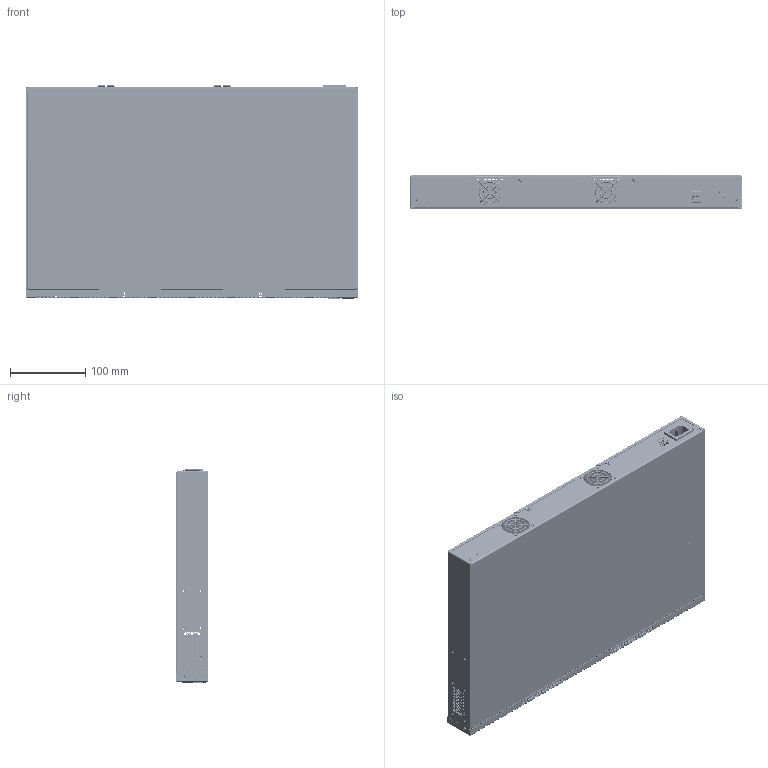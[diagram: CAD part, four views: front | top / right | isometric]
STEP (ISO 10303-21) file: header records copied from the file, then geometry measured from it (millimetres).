
FILE_DESCRIPTION (( 'STEP AP214' ), '1' );
FILE_NAME ('MES2300B-48.STEP', '2024-08-15T11:41:30', ( '' ), ( '' ), 'SwSTEP 2.0', 'SolidWorks 2023', '' );
FILE_SCHEMA (( 'AUTOMOTIVE_DESIGN' ));
Length unit declared in the file: millimetre
Products named in the file (1): MES2300B-48
Bounding box: 440 x 43.6 x 283.6 mm (x, y, z)
Volume: 577587.9 mm3; surface area: 777960 mm2
Topology: 178 solids, 178 shells, 22552 faces, 61288 edges, 39425 vertices
Faces by surface type: plane 16341, cylinder 4066, cone 1764, bspline 289, torus 92
Entity records: 714403 total; most frequent: CARTESIAN_POINT 136695, ORIENTED_EDGE 122448, DIRECTION 114237, EDGE_CURVE 61224, LINE 49191, VECTOR 49191, VERTEX_POINT 39425, AXIS2_PLACEMENT_3D 32523
